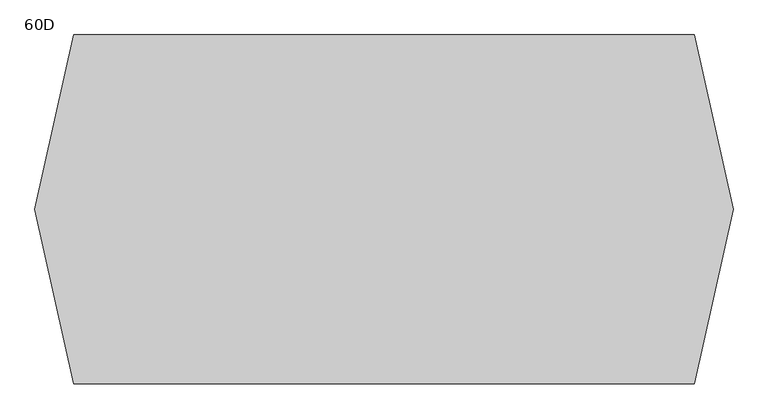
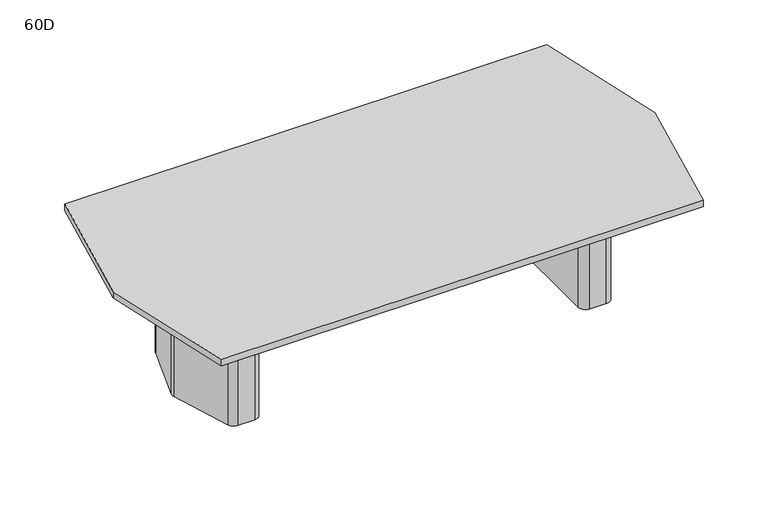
"""IFC4 building model written with IfcOpenShell, lengths in millimetres: furniture geometry, Coalesse_AM_Table_Conference_ETable2_Faceted_10ft_TwoBase : 60D."""

from ifc_helpers import new_model, si_unit, point, frame, frame_2d, origin, origin_with_axes, place, context, project, spatial, polyline, circle_curve, trimmed, segment, composite_curve, outline, extrude, source, transform, mapped, element, save


def furniture_60d_efba6a16(model_context):
    return source(origin(), model_context, "Body", "SweptSolid", [
        extrude(outline(composite_curve([segment(polyline([(1122.3625, 101.7236478), (1122.3625, -97.2761514)]), True, "CONTINUOUS"), segment(trimmed(circle_curve(frame_2d((1084.2625, -97.2761514)), 38.1), [point((1122.3625, -97.2761514))], [point((1120.5991129, -108.7330515))], False, "CARTESIAN"), True, "CONTINUOUS"), segment(polyline([(1120.5991129, -108.7330515), (1062.1745591, -294.0319001)]), True, "CONTINUOUS"), segment(trimmed(circle_curve(frame_2d((1025.8379462, -282.575)), 38.1), [point((1062.1745591, -294.0319001))], [point((1025.8379462, -320.675))], False, "CARTESIAN"), True, "CONTINUOUS"), segment(polyline([(1025.8379462, -320.675), (958.85, -320.675)]), True, "CONTINUOUS"), segment(trimmed(circle_curve(frame_2d((958.85, -282.575)), 38.1), [point((958.85, -320.675))], [point((920.75, -282.575))], False, "CARTESIAN"), True, "CONTINUOUS"), segment(polyline([(920.75, -282.575), (920.75, 282.575)]), True, "CONTINUOUS"), segment(trimmed(circle_curve(frame_2d((958.85, 282.575)), 38.1), [point((920.75, 282.575))], [point((958.85, 320.675))], False, "CARTESIAN"), True, "CONTINUOUS"), segment(polyline([(958.85, 320.675), (1029.5873998, 320.675)]), True, "CONTINUOUS"), segment(trimmed(circle_curve(frame_2d((1029.5873998, 282.575)), 38.1), [point((1029.5873998, 320.675))], [point((1066.0572049, 293.6005756))], False, "CARTESIAN"), True, "CONTINUOUS"), segment(polyline([(1066.0572049, 293.6005756), (1120.7323051, 112.7492234)]), True, "CONTINUOUS"), segment(trimmed(circle_curve(frame_2d((1084.2625, 101.7236478)), 38.1), [point((1120.7323051, 112.7492234))], [point((1122.3625, 101.7236478))], False, "CARTESIAN"), True, "CONTINUOUS")], self_intersect=False)), origin_with_axes(), (0.0, 0.0, 1.0), 3.175),
        extrude(outline(composite_curve([segment(polyline([(942.975, 381.0), (1031.1221663, 381.0)]), True, "CONTINUOUS"), segment(trimmed(circle_curve(frame_2d((1031.1221663, 339.725)), 41.275), [point((1031.1221663, 381.0))], [point((1070.4868303, 352.1366418))], False, "CARTESIAN"), True, "CONTINUOUS"), segment(polyline([(1070.4868303, 352.1366418), (1177.6018053, 12.4116418)]), True, "CONTINUOUS"), segment(trimmed(circle_curve(frame_2d((1138.2371413, 0.0)), 41.275), [point((1177.6018053, 12.4116418))], [point((1177.6018053, -12.4116418))], False, "CARTESIAN"), True, "CONTINUOUS"), segment(polyline([(1177.6018053, -12.4116418), (1070.4868303, -352.1366418)]), True, "CONTINUOUS"), segment(trimmed(circle_curve(frame_2d((1031.1221663, -339.725)), 41.275), [point((1070.4868303, -352.1366418))], [point((1031.1221663, -381.0))], False, "CARTESIAN"), True, "CONTINUOUS"), segment(polyline([(1031.1221663, -381.0), (936.625, -381.0)]), True, "CONTINUOUS"), segment(trimmed(circle_curve(frame_2d((936.625, -339.725)), 41.275), [point((936.625, -381.0))], [point((895.35, -339.725))], False, "CARTESIAN"), True, "CONTINUOUS"), segment(polyline([(895.35, -339.725), (895.35, 333.375)]), True, "CONTINUOUS"), segment(trimmed(circle_curve(frame_2d((942.975, 333.375)), 47.625), [point((895.35, 333.375))], [point((942.975, 381.0))], False, "CARTESIAN"), True, "CONTINUOUS")], self_intersect=False), holes=[composite_curve([segment(trimmed(circle_curve(frame_2d((958.85, -282.575)), 25.4), [point((933.45, -282.575))], [point((958.85, -307.975))], True, "CARTESIAN"), True, "CONTINUOUS"), segment(polyline([(958.85, -307.975), (1025.8379462, -307.975)]), True, "CONTINUOUS"), segment(trimmed(circle_curve(frame_2d((1025.8379462, -282.575)), 25.4), [point((1025.8379462, -307.975))], [point((1050.0623548, -290.2129334))], True, "CARTESIAN"), True, "CONTINUOUS"), segment(polyline([(1050.0623548, -290.2129334), (1108.4869086, -104.9140848)]), True, "CONTINUOUS"), segment(trimmed(circle_curve(frame_2d((1084.2625, -97.2761514)), 25.4), [point((1108.4869086, -104.9140848))], [point((1109.6625, -97.2761514))], True, "CARTESIAN"), True, "CONTINUOUS"), segment(polyline([(1109.6625, -97.2761514), (1109.6625, 101.7236478)]), True, "CONTINUOUS"), segment(trimmed(circle_curve(frame_2d((1084.2625, 101.7236478)), 25.4), [point((1109.6625, 101.7236478))], [point((1108.5757034, 109.0740316))], True, "CARTESIAN"), True, "CONTINUOUS"), segment(polyline([(1108.5757034, 109.0740316), (1053.9006032, 289.9253837)]), True, "CONTINUOUS"), segment(trimmed(circle_curve(frame_2d((1029.5873998, 282.575)), 25.4), [point((1053.9006032, 289.9253837))], [point((1029.5873998, 307.975))], True, "CARTESIAN"), True, "CONTINUOUS"), segment(polyline([(1029.5873998, 307.975), (958.85, 307.975)]), True, "CONTINUOUS"), segment(trimmed(circle_curve(frame_2d((958.85, 282.575)), 25.4), [point((958.85, 307.975))], [point((933.45, 282.575))], True, "CARTESIAN"), True, "CONTINUOUS"), segment(polyline([(933.45, 282.575), (933.45, -282.575)]), True, "CONTINUOUS")], self_intersect=False)]), frame((0.0, 0.0, 3.175), z_axis=(0.0, 0.0, 1.0), x_axis=(1.0, 0.0, 0.0)), (0.0, 0.0, 1.0), 695.325),
        extrude(outline(composite_curve([segment(trimmed(circle_curve(frame_2d((-1095.375, 101.7236478)), 38.1), [point((-1133.475, 101.7236478))], [point((-1131.8448051, 112.7492234))], False, "CARTESIAN"), True, "CONTINUOUS"), segment(polyline([(-1131.8448051, 112.7492234), (-1077.1697049, 293.6005756)]), True, "CONTINUOUS"), segment(trimmed(circle_curve(frame_2d((-1040.6998998, 282.575)), 38.1), [point((-1077.1697049, 293.6005756))], [point((-1040.6998998, 320.675))], False, "CARTESIAN"), True, "CONTINUOUS"), segment(polyline([(-1040.6998998, 320.675), (-969.9625, 320.675)]), True, "CONTINUOUS"), segment(trimmed(circle_curve(frame_2d((-969.9625, 282.575)), 38.1), [point((-969.9625, 320.675))], [point((-931.8625, 282.575))], False, "CARTESIAN"), True, "CONTINUOUS"), segment(polyline([(-931.8625, 282.575), (-931.8625, -282.575)]), True, "CONTINUOUS"), segment(trimmed(circle_curve(frame_2d((-969.9625, -282.575)), 38.1), [point((-931.8625, -282.575))], [point((-969.9625, -320.675))], False, "CARTESIAN"), True, "CONTINUOUS"), segment(polyline([(-969.9625, -320.675), (-1036.9504462, -320.675)]), True, "CONTINUOUS"), segment(trimmed(circle_curve(frame_2d((-1036.9504462, -282.575)), 38.1), [point((-1036.9504462, -320.675))], [point((-1073.2870591, -294.0319001))], False, "CARTESIAN"), True, "CONTINUOUS"), segment(polyline([(-1073.2870591, -294.0319001), (-1131.7116129, -108.7330515)]), True, "CONTINUOUS"), segment(trimmed(circle_curve(frame_2d((-1095.375, -97.2761514)), 38.1), [point((-1131.7116129, -108.7330515))], [point((-1133.475, -97.2761514))], False, "CARTESIAN"), True, "CONTINUOUS"), segment(polyline([(-1133.475, -97.2761514), (-1133.475, 101.7236478)]), True, "CONTINUOUS")], self_intersect=False)), origin_with_axes(), (0.0, 0.0, 1.0), 3.175),
        extrude(outline(composite_curve([segment(trimmed(circle_curve(frame_2d((-954.0875, 333.375)), 47.625), [point((-954.0875, 381.0))], [point((-906.4625, 333.375))], False, "CARTESIAN"), True, "CONTINUOUS"), segment(polyline([(-906.4625, 333.375), (-906.4625, -339.725)]), True, "CONTINUOUS"), segment(trimmed(circle_curve(frame_2d((-947.7375, -339.725)), 41.275), [point((-906.4625, -339.725))], [point((-947.7375, -381.0))], False, "CARTESIAN"), True, "CONTINUOUS"), segment(polyline([(-947.7375, -381.0), (-1042.2346663, -381.0)]), True, "CONTINUOUS"), segment(trimmed(circle_curve(frame_2d((-1042.2346663, -339.725)), 41.275), [point((-1042.2346663, -381.0))], [point((-1081.5993303, -352.1366418))], False, "CARTESIAN"), True, "CONTINUOUS"), segment(polyline([(-1081.5993303, -352.1366418), (-1188.7143053, -12.4116418)]), True, "CONTINUOUS"), segment(trimmed(circle_curve(frame_2d((-1149.3496413, 0.0)), 41.275), [point((-1188.7143053, -12.4116418))], [point((-1188.7143053, 12.4116418))], False, "CARTESIAN"), True, "CONTINUOUS"), segment(polyline([(-1188.7143053, 12.4116418), (-1081.5993303, 352.1366418)]), True, "CONTINUOUS"), segment(trimmed(circle_curve(frame_2d((-1042.2346663, 339.725)), 41.275), [point((-1081.5993303, 352.1366418))], [point((-1042.2346663, 381.0))], False, "CARTESIAN"), True, "CONTINUOUS"), segment(polyline([(-1042.2346663, 381.0), (-954.0875, 381.0)]), True, "CONTINUOUS")], self_intersect=False), holes=[composite_curve([segment(polyline([(-944.5625, -282.575), (-944.5625, 282.575)]), True, "CONTINUOUS"), segment(trimmed(circle_curve(frame_2d((-969.9625, 282.575)), 25.4), [point((-944.5625, 282.575))], [point((-969.9625, 307.975))], True, "CARTESIAN"), True, "CONTINUOUS"), segment(polyline([(-969.9625, 307.975), (-1040.6998998, 307.975)]), True, "CONTINUOUS"), segment(trimmed(circle_curve(frame_2d((-1040.6998998, 282.575)), 25.4), [point((-1040.6998998, 307.975))], [point((-1065.0131032, 289.9253837))], True, "CARTESIAN"), True, "CONTINUOUS"), segment(polyline([(-1065.0131032, 289.9253837), (-1119.6882034, 109.0740316)]), True, "CONTINUOUS"), segment(trimmed(circle_curve(frame_2d((-1095.375, 101.7236478)), 25.4), [point((-1119.6882034, 109.0740316))], [point((-1120.775, 101.7236478))], True, "CARTESIAN"), True, "CONTINUOUS"), segment(polyline([(-1120.775, 101.7236478), (-1120.775, -97.2761514)]), True, "CONTINUOUS"), segment(trimmed(circle_curve(frame_2d((-1095.375, -97.2761514)), 25.4), [point((-1120.775, -97.2761514))], [point((-1119.5994086, -104.9140848))], True, "CARTESIAN"), True, "CONTINUOUS"), segment(polyline([(-1119.5994086, -104.9140848), (-1061.1748548, -290.2129334)]), True, "CONTINUOUS"), segment(trimmed(circle_curve(frame_2d((-1036.9504462, -282.575)), 25.4), [point((-1061.1748548, -290.2129334))], [point((-1036.9504462, -307.975))], True, "CARTESIAN"), True, "CONTINUOUS"), segment(polyline([(-1036.9504462, -307.975), (-969.9625, -307.975)]), True, "CONTINUOUS"), segment(trimmed(circle_curve(frame_2d((-969.9625, -282.575)), 25.4), [point((-969.9625, -307.975))], [point((-944.5625, -282.575))], True, "CARTESIAN"), True, "CONTINUOUS")], self_intersect=False)]), frame((0.0, 0.0, 3.175), z_axis=(0.0, 0.0, 1.0), x_axis=(1.0, 0.0, 0.0)), (0.0, 0.0, 1.0), 695.325),
        extrude(outline(polyline([(-1524.0, 0.0), (-1355.0677242, 762.0), (1355.0677242, 762.0), (1524.0, 0.0), (1355.0677242, -762.0), (-1355.0677242, -762.0), (-1524.0, 0.0)])), frame((0.0, 0.0, 698.5), z_axis=(0.0, 0.0, 1.0), x_axis=(1.0, 0.0, 0.0)), (0.0, 0.0, 1.0), 38.1),
        extrude(outline(polyline([(96.8375, 698.5), (103.1875, 698.5), (103.1875, 476.25), (-103.1875, 476.25), (-103.1875, 698.5), (-96.8375, 698.5), (-96.8375, 482.6), (96.8375, 482.6), (96.8375, 698.5)])), frame((-906.4625, 0.0, 0.0), z_axis=(1.0, 0.0, 0.0), x_axis=(0.0, 1.0, 0.0)), (0.0, 0.0, 1.0), 1801.8125),
    ])


if __name__ == "__main__":
    model = new_model("IFC4")
    model_context = context("Model", 3, world=origin())
    ifc_project = project(units=[si_unit("LENGTHUNIT", "METRE", prefix="MILLI")], contexts=[model_context])
    site = spatial("IfcSite", under=ifc_project)
    building = spatial("IfcBuilding", under=site)
    placement = place(None, origin())
    furniture_60d_shape = furniture_60d_efba6a16(model_context)
    element("IfcFurniture", 1, ObjectType="Coalesse_AM_Table_Conference_ETable2_Faceted_10ft_TwoBase : 60D", at=placement, inside=building, context=model_context, shape_type="MappedRepresentation", body=[
        mapped(furniture_60d_shape, transform((0.0, 0.0, 0.0), x_axis=(1.0, 0.0, 0.0), y_axis=(0.0, 1.0, 0.0), z_axis=(0.0, 0.0, 1.0))),
    ])
    save(model, "model.ifc")
